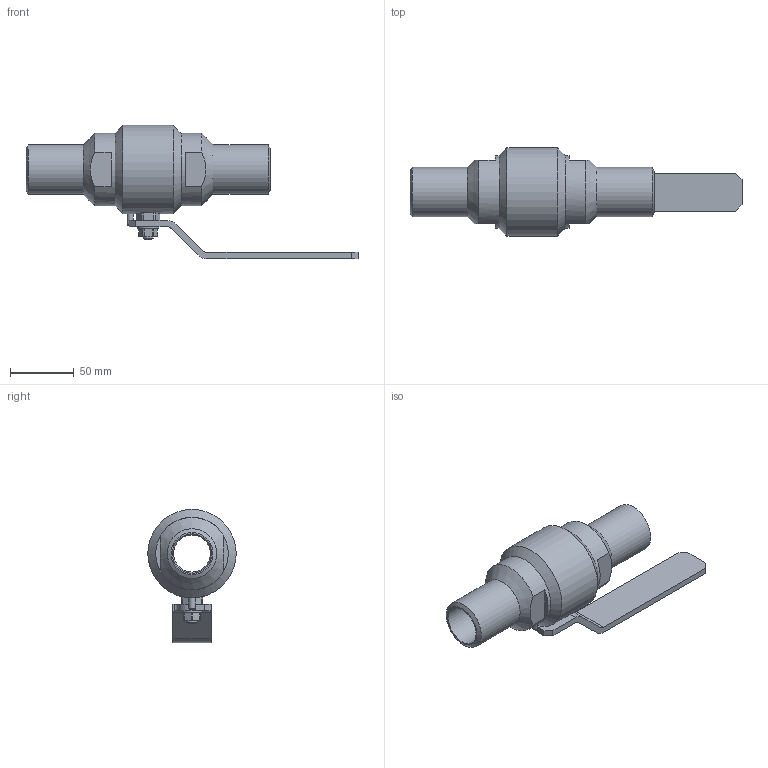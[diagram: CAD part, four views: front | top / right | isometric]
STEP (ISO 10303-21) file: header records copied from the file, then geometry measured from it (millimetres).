
FILE_DESCRIPTION(('STEP AP203'), '1');
FILE_NAME('ZARD 032.063.40.P.stp', '2013-12-06T06:15:46', ('Øèøêî'), ('Ýíåðïðåä ßðäîñ'), 'ASCON STEP Converter 1.3', 'Kompas 3D', '');
FILE_SCHEMA(('CONFIG_CONTROL_DESIGN','SUPPORT_RESOURCE_SCHEMA'));
Length unit declared in the file: millimetre
Products named in the file (1): 56
Bounding box: 261 x 69.5 x 104.75 mm (x, y, z)
Volume: 274271.4 mm3; surface area: 70730.7 mm2
Topology: 1 solids, 3 shells, 145 faces, 340 edges, 211 vertices
Faces by surface type: plane 79, cylinder 43, cone 22, torus 1
Full cylindrical faces by diameter (mm): 5 x2, 8 x1, 10.7 x1, 10.917 x1, 12 x1, 12.1 x1, 19.8 x1, 20 x2, 29 x2, 31 x2, 39 x2, 48.4 x1, 57 x2, 69.5 x1
Entity records: 5184 total; most frequent: CARTESIAN_POINT 1702, DIRECTION 746, ORIENTED_EDGE 680, EDGE_CURVE 340, AXIS2_PLACEMENT_3D 284, VERTEX_POINT 211, LINE 178, VECTOR 178
